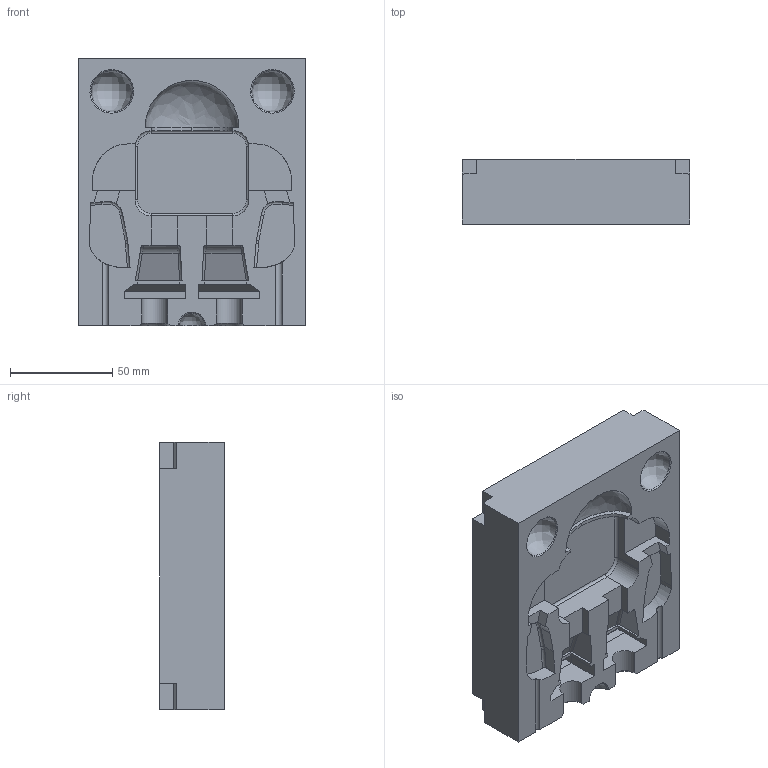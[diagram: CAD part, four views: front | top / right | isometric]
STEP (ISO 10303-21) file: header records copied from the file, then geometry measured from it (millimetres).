
FILE_DESCRIPTION(/* description */ (''),/* implementation_level */ '2;1');
FILE_NAME(/* name */ 'Makey Mold back',/* time_stamp */ '2025-11-30T21:11:09-05:00',/* author */ (''),/* organization */ (''),/* preprocessor_version */ 'ST-DEVELOPER v19.2',/* originating_system */ 'Rhino 8.14',/* authorisation */ '');
FILE_SCHEMA (('CONFIG_CONTROL_DESIGN'));
Length unit declared in the file: inch
Products named in the file (1): Document
Bounding box: 111.35 x 31.59 x 130.73 mm (x, y, z)
Volume: 372516.1 mm3; surface area: 53206.5 mm2
Topology: 1 solids, 1 shells, 161 faces, 433 edges, 275 vertices
Faces by surface type: plane 101, bspline 32, cylinder 28
Entity records: 5404 total; most frequent: CARTESIAN_POINT 2375, ORIENTED_EDGE 864, EDGE_CURVE 432, B_SPLINE_CURVE_WITH_KNOTS 358, VERTEX_POINT 275, DIRECTION 181, EDGE_LOOP 163, ADVANCED_FACE 161
